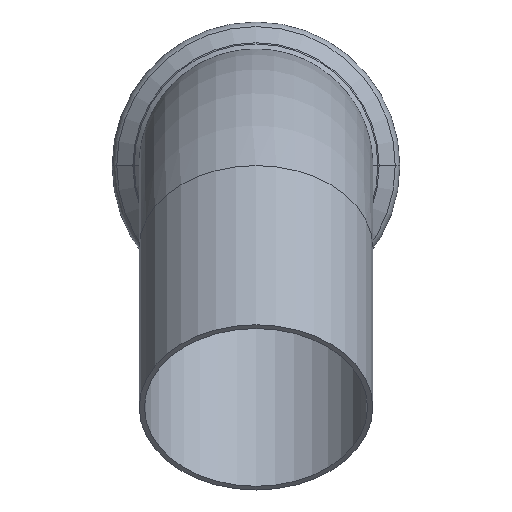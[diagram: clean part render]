
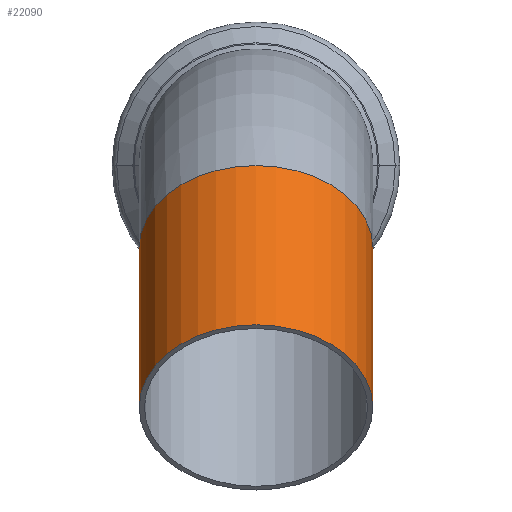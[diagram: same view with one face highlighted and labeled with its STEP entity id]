
A CAD part, left-side view. The second image highlights one B-rep face of the part: STEP entity #22090.
In plain terms, the highlighted cylindrical face has radius 44.45 mm (diameter 88.9 mm), a partial arc.
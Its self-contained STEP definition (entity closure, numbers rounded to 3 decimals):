
#11910=CARTESIAN_POINT('',(-130.924,0.,-91.924));
#11920=DIRECTION('',(0.707,0.,0.707));
#11930=DIRECTION('',(0.,1.,0.));
#11940=AXIS2_PLACEMENT_3D('',#11910,#11920,#11930);
#11950=CIRCLE('',#11940,44.45);
#11960=CARTESIAN_POINT('',(-130.924,44.45,-91.924));
#11970=VERTEX_POINT('',#11960);
#11980=CARTESIAN_POINT('',(-130.924,-44.45,-91.924));
#11990=VERTEX_POINT('',#11980);
#12000=EDGE_CURVE('',#11970,#11990,#11950,.T.);
#12220=CARTESIAN_POINT('',(-70.34,0.,-31.34));
#12230=DIRECTION('',(0.707,0.,0.707));
#12240=DIRECTION('',(0.,1.,0.));
#12250=AXIS2_PLACEMENT_3D('',#12220,#12230,#12240);
#12260=CYLINDRICAL_SURFACE('',#12250,44.45);
#12270=CARTESIAN_POINT('',(-70.34,-44.45,-31.34));
#12280=DIRECTION('',(0.707,0.,0.707));
#12290=VECTOR('',#12280,1.);
#12300=LINE('',#12270,#12290);
#12310=CARTESIAN_POINT('',(-70.34,-44.45,-31.34));
#12320=VERTEX_POINT('',#12310);
#12330=EDGE_CURVE('',#11990,#12320,#12300,.T.);
#12350=CARTESIAN_POINT('',(-70.34,0.,-31.34));
#12360=DIRECTION('',(-0.707,0.,-0.707));
#12370=DIRECTION('',(0.,1.,0.));
#12380=AXIS2_PLACEMENT_3D('',#12350,#12360,#12370);
#12390=CIRCLE('',#12380,44.45);
#12400=CARTESIAN_POINT('',(-70.34,44.45,-31.34));
#12410=VERTEX_POINT('',#12400);
#12440=CARTESIAN_POINT('',(-70.34,44.45,-31.34));
#12450=DIRECTION('',(0.707,0.,0.707));
#12460=VECTOR('',#12450,1.);
#12470=LINE('',#12440,#12460);
#12480=EDGE_CURVE('',#11970,#12410,#12470,.T.);
#17630=EDGE_CURVE('',#12320,#12410,#12390,.T.);
#22030=ORIENTED_EDGE('',*,*,#12330,.T.);
#22040=ORIENTED_EDGE('',*,*,#12000,.T.);
#22050=ORIENTED_EDGE('',*,*,#12480,.F.);
#22060=ORIENTED_EDGE('',*,*,#17630,.T.);
#22070=EDGE_LOOP('',(#22060,#22050,#22040,#22030));
#22080=FACE_OUTER_BOUND('',#22070,.T.);
#22090=ADVANCED_FACE('',(#22080),#12260,.T.);
